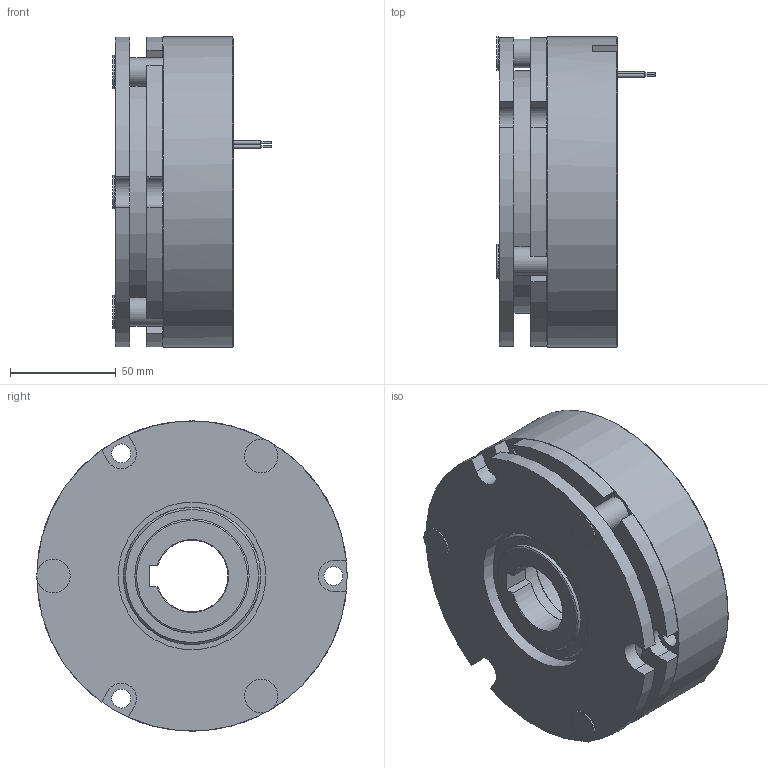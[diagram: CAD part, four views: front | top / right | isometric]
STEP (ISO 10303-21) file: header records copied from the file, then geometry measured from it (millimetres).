
FILE_DESCRIPTION (( 'STEP AP214' ), '1' );
FILE_NAME ('KS_10114A00_Customer_3D_model_19.12.17.STEP', '2020-03-24T10:53:52', ( '' ), ( '' ), 'SwSTEP 2.0', 'SolidWorks 2018', '' );
FILE_SCHEMA (( 'AUTOMOTIVE_DESIGN' ));
Length unit declared in the file: millimetre
Products named in the file (1): KS_10114A00_Customer_3D_model_19.12.17
Bounding box: 75.25 x 147 x 147 mm (x, y, z)
Volume: 790059.3 mm3; surface area: 114269.5 mm2
Topology: 1 solids, 1 shells, 98 faces, 233 edges, 156 vertices
Faces by surface type: plane 45, cylinder 44, cone 7, bspline 1, torus 1
Full cylindrical faces by diameter (mm): 0.9 x2, 1.8 x2, 6.8 x3, 9 x3, 13.6 x3, 15.8 x3, 45 x2, 53 x1, 54.144 x1, 65 x1, 70 x1, 115 x1, 147 x1
Entity records: 2764 total; most frequent: CARTESIAN_POINT 485, DIRECTION 482, ORIENTED_EDGE 388, AXIS2_PLACEMENT_3D 196, EDGE_CURVE 194, EDGE_LOOP 161, VERTEX_POINT 147, FACE_OUTER_BOUND 124
